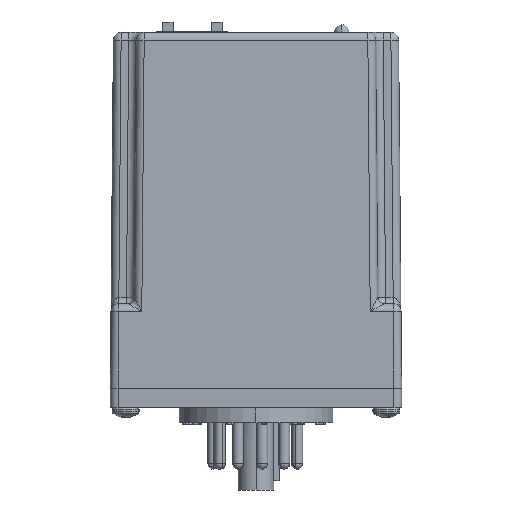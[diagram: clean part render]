
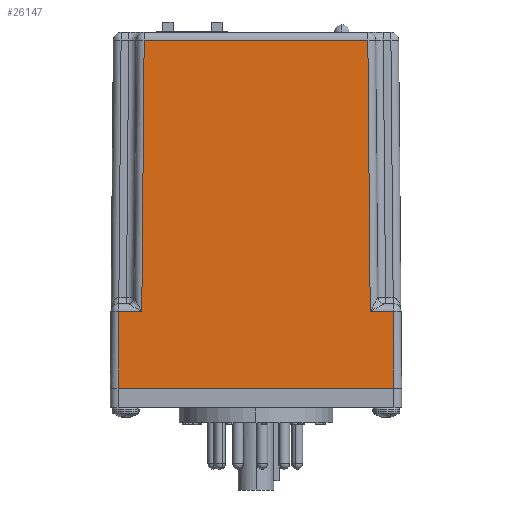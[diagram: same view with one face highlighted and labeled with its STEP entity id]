
A CAD part, left-side view. The second image highlights one B-rep face of the part: STEP entity #26147.
In plain terms, the highlighted planar face has unit normal (-1, 0, 0.009).
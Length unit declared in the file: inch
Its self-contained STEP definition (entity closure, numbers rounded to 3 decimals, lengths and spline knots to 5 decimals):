
#17381 = DIRECTION ( 'NONE',  ( 0., 1., 0. ) ) ;
#17383 = VECTOR ( 'NONE', #17381, 39.37008 ) ;
#17384 = CARTESIAN_POINT ( 'NONE',  ( -0.86954, -0.9305, 0.62555 ) ) ;
#17385 = LINE ( 'NONE', #17384, #17383 ) ;
#17389 = CARTESIAN_POINT ( 'NONE',  ( -0.86954, -1.11904, 0.62555 ) ) ;
#17391 = DIRECTION ( 'NONE',  ( 0.009, 0.009, 1. ) ) ;
#17393 = VECTOR ( 'NONE', #17391, 39.37008 ) ;
#18484 = CARTESIAN_POINT ( 'NONE',  ( -0.875, -1.12451, -0.00055 ) ) ;
#18486 = LINE ( 'NONE', #18484, #17393 ) ;
#18491 = CARTESIAN_POINT ( 'NONE',  ( -0.875, -1.1245, 0. ) ) ;
#18493 = DIRECTION ( 'NONE',  ( 0., -1., 0. ) ) ;
#18495 = VECTOR ( 'NONE', #18493, 39.37008 ) ;
#18496 = CARTESIAN_POINT ( 'NONE',  ( -0.875, -1.1875, 0. ) ) ;
#18497 = LINE ( 'NONE', #18496, #18495 ) ;
#18501 = CARTESIAN_POINT ( 'NONE',  ( -0.875, 1.1245, 0. ) ) ;
#18502 = DIRECTION ( 'NONE',  ( -0.009, 0.009, -1. ) ) ;
#18504 = VECTOR ( 'NONE', #18502, 39.37008 ) ;
#18505 = CARTESIAN_POINT ( 'NONE',  ( -0.87482, 1.12433, 0.02017 ) ) ;
#18506 = LINE ( 'NONE', #18505, #18504 ) ;
#18511 = CARTESIAN_POINT ( 'NONE',  ( -0.86954, 1.11904, 0.62555 ) ) ;
#18513 = DIRECTION ( 'NONE',  ( 0., 1., 0. ) ) ;
#18515 = VECTOR ( 'NONE', #18513, 39.37008 ) ;
#18516 = CARTESIAN_POINT ( 'NONE',  ( -0.86954, 1.1185, 0.62555 ) ) ;
#18518 = LINE ( 'NONE', #18516, #18515 ) ;
#18523 = CARTESIAN_POINT ( 'NONE',  ( -0.86954, 0.93104, 0.62555 ) ) ;
#18554 = CARTESIAN_POINT ( 'NONE',  ( -0.87484, 0.93634, 0.01853 ) ) ;
#18555 = LINE ( 'NONE', #18554, #18699 ) ;
#18559 = DIRECTION ( 'NONE',  ( 0.009, 0., 1. ) ) ;
#18560 = DIRECTION ( 'NONE',  ( -1., 0., 0.009 ) ) ;
#18562 = CARTESIAN_POINT ( 'NONE',  ( -0.875, -1.1875, 0. ) ) ;
#18563 = AXIS2_PLACEMENT_3D ( 'NONE', #18562, #18560, #18559 ) ;
#18565 = PLANE ( 'NONE',  #18563 ) ;
#18570 = FACE_OUTER_BOUND ( 'NONE', #26148, .T. ) ;
#18624 = CARTESIAN_POINT ( 'NONE',  ( -0.86954, -0.93104, 0.62555 ) ) ;
#18695 = CARTESIAN_POINT ( 'NONE',  ( -0.85024, 0.91174, 2.83755 ) ) ;
#18697 = DIRECTION ( 'NONE',  ( -0.009, 0.009, -1. ) ) ;
#18699 = VECTOR ( 'NONE', #18697, 39.37008 ) ;
#18793 = DIRECTION ( 'NONE',  ( 0., 1., 0. ) ) ;
#18795 = VECTOR ( 'NONE', #18793, 39.37008 ) ;
#18797 = CARTESIAN_POINT ( 'NONE',  ( -0.85024, 0.91119, 2.83755 ) ) ;
#18798 = LINE ( 'NONE', #18797, #18795 ) ;
#18802 = CARTESIAN_POINT ( 'NONE',  ( -0.85024, -0.91174, 2.83755 ) ) ;
#18804 = DIRECTION ( 'NONE',  ( 0.009, 0.009, 1. ) ) ;
#18805 = VECTOR ( 'NONE', #18804, 39.37008 ) ;
#18808 = CARTESIAN_POINT ( 'NONE',  ( -0.87502, -0.93652, -0.00219 ) ) ;
#18809 = LINE ( 'NONE', #18808, #18805 ) ;
#26121 = VERTEX_POINT ( 'NONE', #18523 ) ;
#26122 = ORIENTED_EDGE ( 'NONE', *, *, #26123, .T. ) ;
#26123 = EDGE_CURVE ( 'NONE', #26121, #26124, #18518, .T. ) ;
#26124 = VERTEX_POINT ( 'NONE', #18511 ) ;
#26125 = ORIENTED_EDGE ( 'NONE', *, *, #26126, .T. ) ;
#26126 = EDGE_CURVE ( 'NONE', #26124, #26127, #18506, .T. ) ;
#26127 = VERTEX_POINT ( 'NONE', #18501 ) ;
#26128 = ORIENTED_EDGE ( 'NONE', *, *, #26129, .T. ) ;
#26129 = EDGE_CURVE ( 'NONE', #26127, #26130, #18497, .T. ) ;
#26130 = VERTEX_POINT ( 'NONE', #18491 ) ;
#26131 = ORIENTED_EDGE ( 'NONE', *, *, #26132, .T. ) ;
#26132 = EDGE_CURVE ( 'NONE', #26130, #26133, #18486, .T. ) ;
#26133 = VERTEX_POINT ( 'NONE', #17389 ) ;
#26134 = ORIENTED_EDGE ( 'NONE', *, *, #26135, .T. ) ;
#26135 = EDGE_CURVE ( 'NONE', #26133, #26136, #17385, .T. ) ;
#26136 = VERTEX_POINT ( 'NONE', #18624 ) ;
#26147 = ADVANCED_FACE ( 'NONE', ( #18570 ), #18565, .T. ) ;
#26148 = EDGE_LOOP ( 'NONE', ( #26149, #26122, #26125, #26128, #26131, #26134, #26191, #26194 ) ) ;
#26149 = ORIENTED_EDGE ( 'NONE', *, *, #26150, .T. ) ;
#26150 = EDGE_CURVE ( 'NONE', #26151, #26121, #18555, .T. ) ;
#26151 = VERTEX_POINT ( 'NONE', #18695 ) ;
#26191 = ORIENTED_EDGE ( 'NONE', *, *, #26192, .T. ) ;
#26192 = EDGE_CURVE ( 'NONE', #26136, #26193, #18809, .T. ) ;
#26193 = VERTEX_POINT ( 'NONE', #18802 ) ;
#26194 = ORIENTED_EDGE ( 'NONE', *, *, #26195, .T. ) ;
#26195 = EDGE_CURVE ( 'NONE', #26193, #26151, #18798, .T. ) ;
